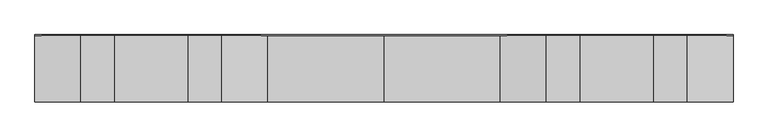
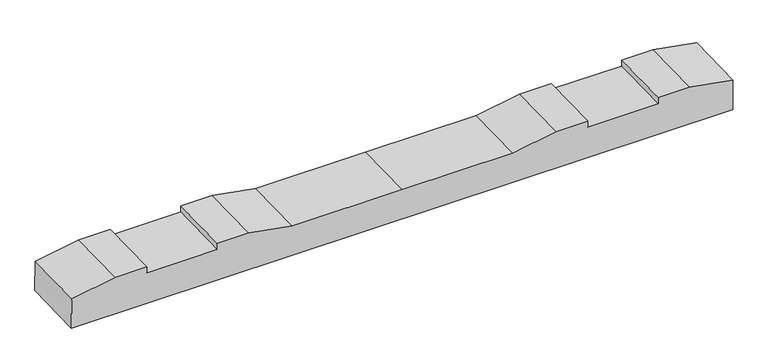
"""IFC4 building model written with IfcOpenShell, lengths in millimetres: proxy geometry, 轨枕-立面角度 : 轨枕-立面角度."""

from ifc_helpers import new_model, si_unit, frame, origin, place, context, project, spatial, polyline, outline, extrude, source, transform, mapped, element, save


def generic_models_43f668e8(model_context):
    return source(origin(), model_context, "Body", "SweptSolid", [
        extrude(outline(polyline([(0.0, 0.0), (2099.7669328, 0.0), (2099.7669328, -100.020689), (1961.8834664, -124.5000001), (1861.8834664, -124.5000001), (1861.8834664, -104.5), (1637.8834664, -104.5), (1637.8834664, -124.5000001), (1537.8834664, -124.5000001), (1399.8834664, -100.0000001), (1049.8834664, -100.0000001), (699.8834664, -100.0000001), (561.8834664, -124.5000001), (461.8834664, -124.5000001), (461.8834664, -104.5), (237.8834664, -104.5), (237.8834664, -124.5000001), (137.8834664, -124.5000001), (0.0, -100.020689), (0.0, 0.0)])), frame((-1049.8834664, -97.410617, -106.9178269), z_axis=(0.0, 0.9997000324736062, 0.02449173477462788), x_axis=(1.0, 0.0, 0.0)), (0.0, 0.0, 1.0), 200.0),
    ])


if __name__ == "__main__":
    model = new_model("IFC4")
    model_context = context("Model", 3, world=origin())
    ifc_project = project(units=[si_unit("LENGTHUNIT", "METRE", prefix="MILLI")], contexts=[model_context])
    site = spatial("IfcSite", under=ifc_project)
    building = spatial("IfcBuilding", under=site)
    placement = place(None, origin())
    generic_models_shape = generic_models_43f668e8(model_context)
    element("IfcBuildingElementProxy", 1, Name="轨枕-立面角度 : 轨枕-立面角度", ObjectType="轨枕-立面角度 : 轨枕-立面角度", at=placement, inside=building, context=model_context, shape_type="MappedRepresentation", body=[
        mapped(generic_models_shape, transform((0.0, 0.0, 0.0), x_axis=(1.0, 0.0, 0.0), y_axis=(0.0, 1.0, 0.0), z_axis=(0.0, 0.0, 1.0))),
    ])
    save(model, "model.ifc")
